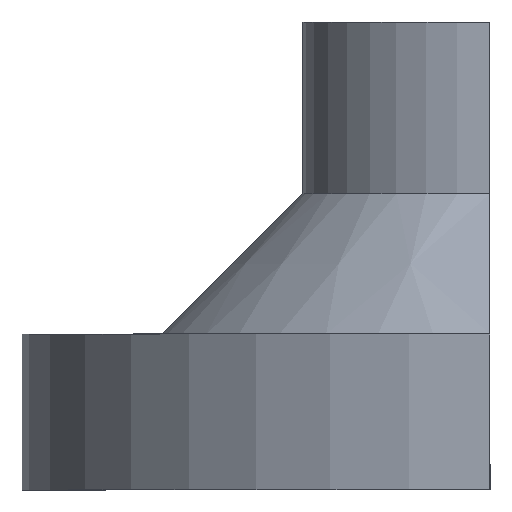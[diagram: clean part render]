
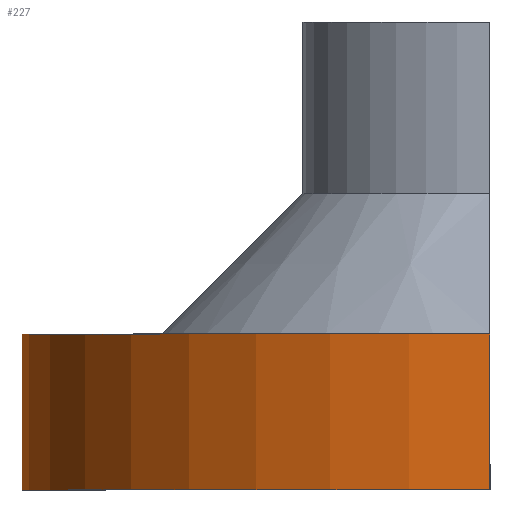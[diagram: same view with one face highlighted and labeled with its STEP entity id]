
A CAD part, left-side view. The second image highlights one B-rep face of the part: STEP entity #227.
In plain terms, the highlighted cylindrical face has radius 30 mm (diameter 60 mm), a partial arc.
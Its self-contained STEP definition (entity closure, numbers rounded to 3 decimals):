
#84 = PLANE('',#85);
#85 = AXIS2_PLACEMENT_3D('',#86,#87,#88);
#86 = CARTESIAN_POINT('',(-8.,30.,0.));
#87 = DIRECTION('',(0.,0.,1.));
#88 = DIRECTION('',(0.,1.,0.));
#113 = PLANE('',#114);
#114 = AXIS2_PLACEMENT_3D('',#115,#116,#117);
#115 = CARTESIAN_POINT('',(0.,0.,0.));
#116 = DIRECTION('',(0.,1.,0.));
#117 = DIRECTION('',(1.,0.,0.));
#139 = PLANE('',#140);
#140 = AXIS2_PLACEMENT_3D('',#141,#142,#143);
#141 = CARTESIAN_POINT('',(8.,30.,0.));
#142 = DIRECTION('',(0.,0.,-1.));
#143 = DIRECTION('',(0.,1.,0.));
#156 = VERTEX_POINT('',#157);
#157 = CARTESIAN_POINT('',(-30.,0.,0.)
  );
#178 = EDGE_CURVE('',#179,#156,#181,.T.);
#179 = VERTEX_POINT('',#180);
#180 = CARTESIAN_POINT('',(30.,0.,0.));
#181 = SURFACE_CURVE('',#182,(#187,#194),.PCURVE_S1.);
#182 = CIRCLE('',#183,30.);
#183 = AXIS2_PLACEMENT_3D('',#184,#185,#186);
#184 = CARTESIAN_POINT('',(0.,0.,0.));
#185 = DIRECTION('',(0.,1.,0.));
#186 = DIRECTION('',(1.,0.,0.));
#187 = PCURVE('',#113,#188);
#188 = DEFINITIONAL_REPRESENTATION('',(#189),#193);
#189 = CIRCLE('',#190,30.);
#190 = AXIS2_PLACEMENT_2D('',#191,#192);
#191 = CARTESIAN_POINT('',(0.,0.));
#192 = DIRECTION('',(1.,-0.));
#193 = ( GEOMETRIC_REPRESENTATION_CONTEXT(2) 
PARAMETRIC_REPRESENTATION_CONTEXT() REPRESENTATION_CONTEXT('2D SPACE',''
  ) );
#194 = PCURVE('',#195,#200);
#195 = CYLINDRICAL_SURFACE('',#196,30.);
#196 = AXIS2_PLACEMENT_3D('',#197,#198,#199);
#197 = CARTESIAN_POINT('',(0.,0.,0.));
#198 = DIRECTION('',(0.,1.,0.));
#199 = DIRECTION('',(1.,0.,0.));
#200 = DEFINITIONAL_REPRESENTATION('',(#201),#205);
#201 = LINE('',#202,#203);
#202 = CARTESIAN_POINT('',(0.,0.));
#203 = VECTOR('',#204,1.);
#204 = DIRECTION('',(1.,0.));
#205 = ( GEOMETRIC_REPRESENTATION_CONTEXT(2) 
PARAMETRIC_REPRESENTATION_CONTEXT() REPRESENTATION_CONTEXT('2D SPACE',''
  ) );
#227 = ADVANCED_FACE('',(#228),#195,.T.);
#228 = FACE_BOUND('',#229,.T.);
#229 = EDGE_LOOP('',(#230,#231,#254,#283));
#230 = ORIENTED_EDGE('',*,*,#178,.T.);
#231 = ORIENTED_EDGE('',*,*,#232,.T.);
#232 = EDGE_CURVE('',#156,#233,#235,.T.);
#233 = VERTEX_POINT('',#234);
#234 = CARTESIAN_POINT('',(-30.,10.,0.));
#235 = SURFACE_CURVE('',#236,(#240,#247),.PCURVE_S1.);
#236 = LINE('',#237,#238);
#237 = CARTESIAN_POINT('',(-30.,0.,0.)
  );
#238 = VECTOR('',#239,1.);
#239 = DIRECTION('',(0.,1.,0.));
#240 = PCURVE('',#195,#241);
#241 = DEFINITIONAL_REPRESENTATION('',(#242),#246);
#242 = LINE('',#243,#244);
#243 = CARTESIAN_POINT('',(3.142,0.));
#244 = VECTOR('',#245,1.);
#245 = DIRECTION('',(0.,1.));
#246 = ( GEOMETRIC_REPRESENTATION_CONTEXT(2) 
PARAMETRIC_REPRESENTATION_CONTEXT() REPRESENTATION_CONTEXT('2D SPACE',''
  ) );
#247 = PCURVE('',#84,#248);
#248 = DEFINITIONAL_REPRESENTATION('',(#249),#253);
#249 = LINE('',#250,#251);
#250 = CARTESIAN_POINT('',(-30.,22.));
#251 = VECTOR('',#252,1.);
#252 = DIRECTION('',(1.,0.));
#253 = ( GEOMETRIC_REPRESENTATION_CONTEXT(2) 
PARAMETRIC_REPRESENTATION_CONTEXT() REPRESENTATION_CONTEXT('2D SPACE',''
  ) );
#254 = ORIENTED_EDGE('',*,*,#255,.F.);
#255 = EDGE_CURVE('',#256,#233,#258,.T.);
#256 = VERTEX_POINT('',#257);
#257 = CARTESIAN_POINT('',(30.,10.,0.));
#258 = SURFACE_CURVE('',#259,(#264,#271),.PCURVE_S1.);
#259 = CIRCLE('',#260,30.);
#260 = AXIS2_PLACEMENT_3D('',#261,#262,#263);
#261 = CARTESIAN_POINT('',(0.,10.,0.));
#262 = DIRECTION('',(0.,1.,0.));
#263 = DIRECTION('',(1.,0.,0.));
#264 = PCURVE('',#195,#265);
#265 = DEFINITIONAL_REPRESENTATION('',(#266),#270);
#266 = LINE('',#267,#268);
#267 = CARTESIAN_POINT('',(0.,10.));
#268 = VECTOR('',#269,1.);
#269 = DIRECTION('',(1.,0.));
#270 = ( GEOMETRIC_REPRESENTATION_CONTEXT(2) 
PARAMETRIC_REPRESENTATION_CONTEXT() REPRESENTATION_CONTEXT('2D SPACE',''
  ) );
#271 = PCURVE('',#272,#277);
#272 = PLANE('',#273);
#273 = AXIS2_PLACEMENT_3D('',#274,#275,#276);
#274 = CARTESIAN_POINT('',(0.,10.,0.));
#275 = DIRECTION('',(0.,1.,0.));
#276 = DIRECTION('',(1.,0.,0.));
#277 = DEFINITIONAL_REPRESENTATION('',(#278),#282);
#278 = CIRCLE('',#279,30.);
#279 = AXIS2_PLACEMENT_2D('',#280,#281);
#280 = CARTESIAN_POINT('',(0.,0.));
#281 = DIRECTION('',(1.,0.));
#282 = ( GEOMETRIC_REPRESENTATION_CONTEXT(2) 
PARAMETRIC_REPRESENTATION_CONTEXT() REPRESENTATION_CONTEXT('2D SPACE',''
  ) );
#283 = ORIENTED_EDGE('',*,*,#284,.F.);
#284 = EDGE_CURVE('',#179,#256,#285,.T.);
#285 = SURFACE_CURVE('',#286,(#290,#297),.PCURVE_S1.);
#286 = LINE('',#287,#288);
#287 = CARTESIAN_POINT('',(30.,0.,0.));
#288 = VECTOR('',#289,1.);
#289 = DIRECTION('',(0.,1.,0.));
#290 = PCURVE('',#195,#291);
#291 = DEFINITIONAL_REPRESENTATION('',(#292),#296);
#292 = LINE('',#293,#294);
#293 = CARTESIAN_POINT('',(0.,0.));
#294 = VECTOR('',#295,1.);
#295 = DIRECTION('',(0.,1.));
#296 = ( GEOMETRIC_REPRESENTATION_CONTEXT(2) 
PARAMETRIC_REPRESENTATION_CONTEXT() REPRESENTATION_CONTEXT('2D SPACE',''
  ) );
#297 = PCURVE('',#139,#298);
#298 = DEFINITIONAL_REPRESENTATION('',(#299),#303);
#299 = LINE('',#300,#301);
#300 = CARTESIAN_POINT('',(-30.,22.));
#301 = VECTOR('',#302,1.);
#302 = DIRECTION('',(1.,0.));
#303 = ( GEOMETRIC_REPRESENTATION_CONTEXT(2) 
PARAMETRIC_REPRESENTATION_CONTEXT() REPRESENTATION_CONTEXT('2D SPACE',''
  ) );
